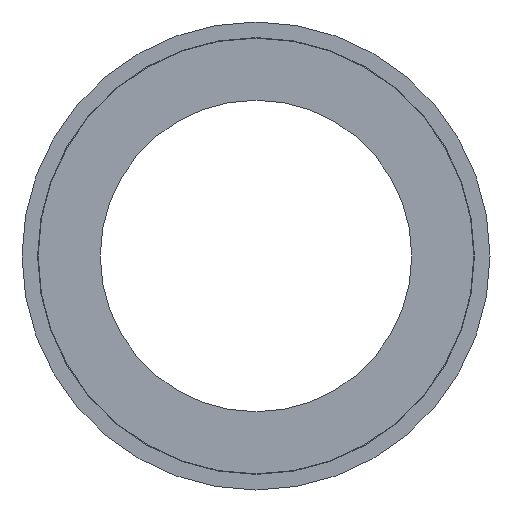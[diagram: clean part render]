
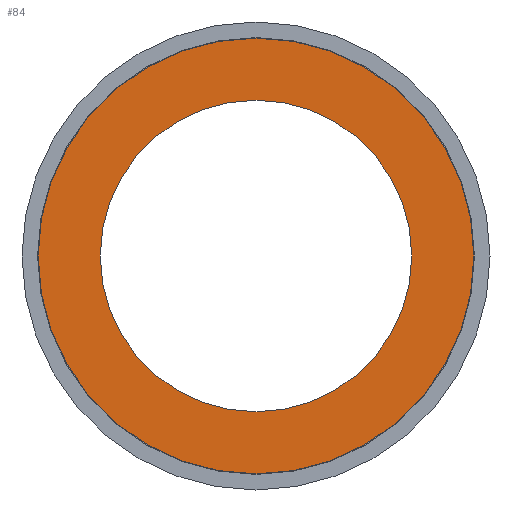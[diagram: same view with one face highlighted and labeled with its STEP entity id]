
A CAD part, left-side view. The second image highlights one B-rep face of the part: STEP entity #84.
In plain terms, the highlighted planar face has unit normal (-1, 0, 0).
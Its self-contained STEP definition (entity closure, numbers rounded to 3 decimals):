
#84=ADVANCED_FACE('',(#210,#212),#214,.T.);
#210=FACE_BOUND('',#211,.T.);
#211=EDGE_LOOP('',(#308));
#212=FACE_BOUND('',#213,.T.);
#213=EDGE_LOOP('',(#309));
#214=PLANE('',#215);
#215=AXIS2_PLACEMENT_3D('',#216,#217,#218);
#216=CARTESIAN_POINT('',(-362.5,0.,0.));
#217=DIRECTION('',(-1.,0.,0.));
#218=DIRECTION('',(0.,0.,1.));
#308=ORIENTED_EDGE('',*,*,#333,.T.);
#309=ORIENTED_EDGE('',*,*,#332,.F.);
#332=EDGE_CURVE('',#350,#350,#351,.T.);
#333=EDGE_CURVE('',#352,#352,#353,.T.);
#350=VERTEX_POINT('',#390);
#351=CIRCLE('',#391,29.95);
#352=VERTEX_POINT('',#395);
#353=CIRCLE('',#396,41.9);
#390=CARTESIAN_POINT('',(-362.5,0.,29.95));
#391=AXIS2_PLACEMENT_3D('',#392,#393,#394);
#392=CARTESIAN_POINT('',(-362.5,0.,0.));
#393=DIRECTION('',(-1.,0.,0.));
#394=DIRECTION('',(0.,0.,1.));
#395=CARTESIAN_POINT('',(-362.5,0.,41.9));
#396=AXIS2_PLACEMENT_3D('',#397,#398,#399);
#397=CARTESIAN_POINT('',(-362.5,0.,0.));
#398=DIRECTION('',(-1.,0.,0.));
#399=DIRECTION('',(0.,0.,1.));
